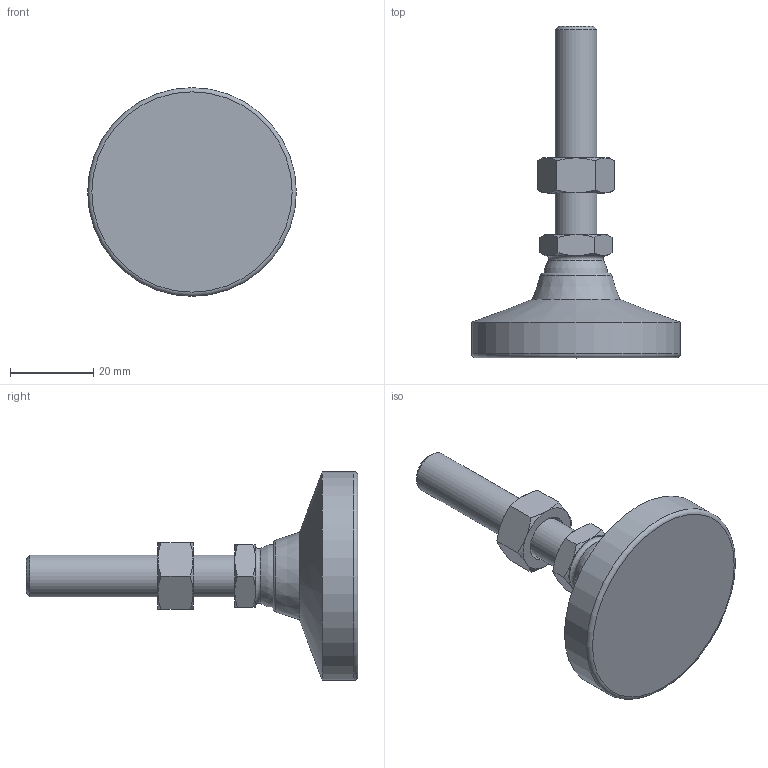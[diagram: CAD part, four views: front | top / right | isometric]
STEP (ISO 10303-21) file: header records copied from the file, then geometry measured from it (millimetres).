
FILE_DESCRIPTION( ( 'STEP AP214' ), ' ' );
FILE_NAME( 'O:/ganter_2015/teil_2/2_5/gn343_2/gn343_2_kr/Levelling foot with threaded stud GN 343.2-50-M10-50-KR-(0).stp', '2015-10-26T09:13:28', ( '' ), ( '' ), ' ', 'PARTsolutions', ' ' );
FILE_SCHEMA( ( 'AUTOMOTIVE_DESIGN { 1 0 10303 214 1 1 1 1 }' ) );
Length unit declared in the file: millimetre
Products named in the file (4): Levelling foot with threaded stud GN 343.2-50-M10-50-KR-(0); _Levelling foot with threaded stud GN 343.2-50-M10-50-KR-(0)_foot; _Levelling foot with threaded stud GN 343.2-50-M10-50-KR-(0)_screw; _Levelling foot with threaded stud GN 343.2-50-M10-50-KR-(0)_nut
Assembly tree (3 placements, depth 2):
  Levelling foot with threaded stud GN 343.2-50-M10-50-KR-(0)
    _Levelling foot with threaded stud GN 343.2-50-M10-50-KR-(0)_foot
    _Levelling foot with threaded stud GN 343.2-50-M10-50-KR-(0)_screw
    _Levelling foot with threaded stud GN 343.2-50-M10-50-KR-(0)_nut
Bounding box: 50 x 79.5 x 50 mm (x, y, z)
Volume: 31083.2 mm3; surface area: 9446.2 mm2
Topology: 3 solids, 3 shells, 56 faces, 117 edges, 68 vertices
Faces by surface type: cone 29, plane 19, torus 3, cylinder 3, sphere 2
Full cylindrical faces by diameter (mm): 8.376 x1, 10 x1, 50 x1
Entity records: 2066 total; most frequent: CARTESIAN_POINT 498, DIRECTION 212, ORIENTED_EDGE 200, AXIS2_PLACEMENT_3D 100, EDGE_CURVE 100, EDGE_LOOP 72, VERTEX_POINT 66, FACE_OUTER_BOUND 62
